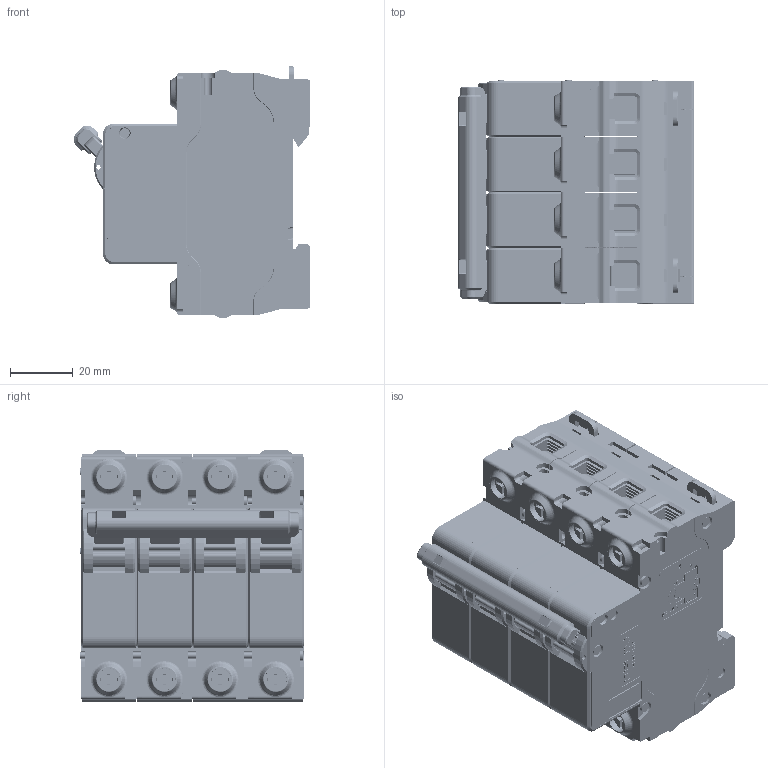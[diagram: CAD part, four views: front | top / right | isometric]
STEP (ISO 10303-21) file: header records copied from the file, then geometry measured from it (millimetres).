
FILE_DESCRIPTION((''),'2;1');
FILE_NAME('2258012600_ASM_SW0002','2019-07-17T',('xiao.wang'),(''),'PRO/ENGINEER BY PARAMETRIC TECHNOLOGY CORPORATION, 2015440','PRO/ENGINEER BY PARAMETRIC TECHNOLOGY CORPORATION, 2015440','');
FILE_SCHEMA(('CONFIG_CONTROL_DESIGN'));
Products named in the file (1): 2258012600_ASM_SW0002
Bounding box: 75.27 x 71.05 x 80.3 mm (x, y, z)
Volume: 262149.9 mm3; surface area: 92312 mm2
Topology: 1 solids, 11 shells, 11457 faces, 32191 edges, 21134 vertices
Faces by surface type: plane 7829, cylinder 1980, extrusion 1020, cone 402, torus 132, bspline 59, sphere 35
Entity records: 377759 total; most frequent: CARTESIAN_POINT 83440, ORIENTED_EDGE 64308, DIRECTION 55805, EDGE_CURVE 32154, VECTOR 25297, LINE 24277, VERTEX_POINT 21134, AXIS2_PLACEMENT_3D 15254
